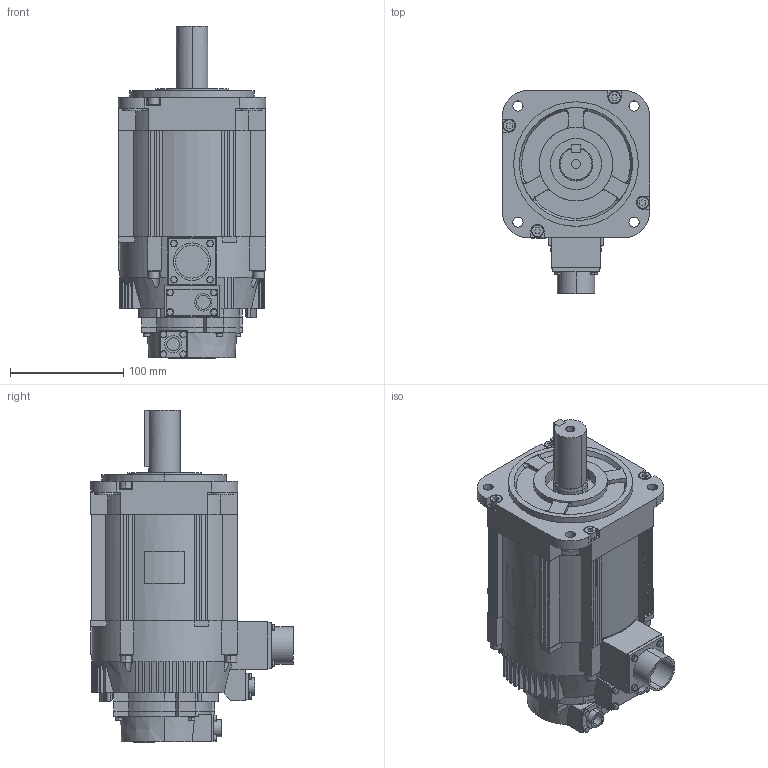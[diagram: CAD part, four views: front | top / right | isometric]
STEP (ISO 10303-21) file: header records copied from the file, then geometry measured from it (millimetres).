
FILE_DESCRIPTION (( 'STEP AP203' ), '1' );
FILE_NAME ('sgm7a_30a_a6c.STEP', '2016-02-18T23:39:54', ( '匠エンジニアリング山之内' ), ( 'TAKUMI-Engniaring' ), 'SwSTEP 2.0', 'SolidWorks 2006303', '' );
FILE_SCHEMA (( 'CONFIG_CONTROL_DESIGN' ));
Length unit declared in the file: millimetre
Products named in the file (3): sgm7a_30a_a6c_base; sgm7a_30a_a6c; sgm7a_30a_a6c_key
Assembly tree (2 placements, depth 2):
  sgm7a_30a_a6c
    sgm7a_30a_a6c_key
    sgm7a_30a_a6c_base
Bounding box: 130 x 179 x 293.1 mm (x, y, z)
Volume: 2928244.1 mm3; surface area: 194300.2 mm2
Topology: 2 solids, 2 shells, 832 faces, 2164 edges, 1426 vertices
Faces by surface type: plane 535, cylinder 245, cone 46, bspline 6
Entity records: 26430 total; most frequent: CARTESIAN_POINT 5266, DIRECTION 4386, ORIENTED_EDGE 4328, EDGE_CURVE 2164, AXIS2_PLACEMENT_3D 1505, VERTEX_POINT 1426, VECTOR 1376, LINE 1376
